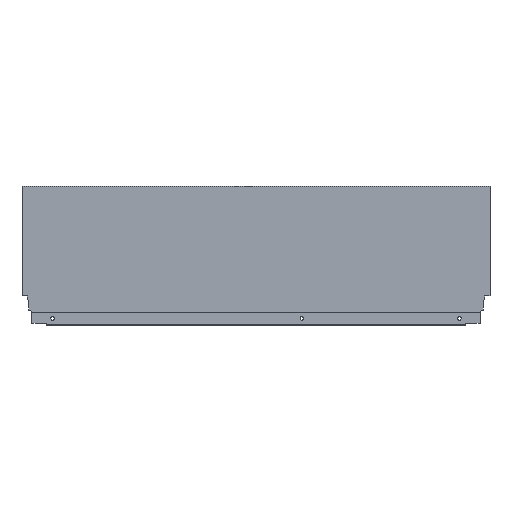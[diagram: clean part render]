
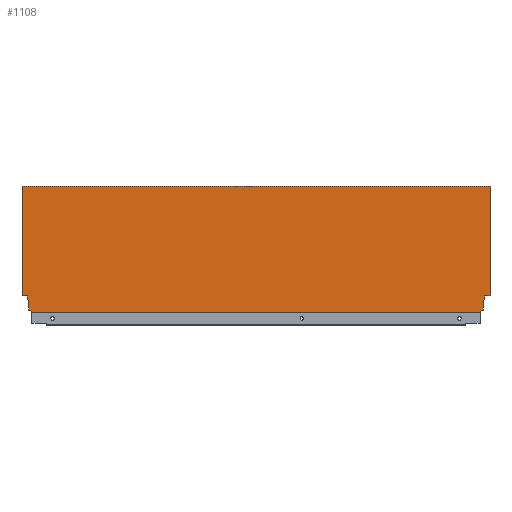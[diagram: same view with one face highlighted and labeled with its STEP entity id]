
A CAD part, top view. The second image highlights one B-rep face of the part: STEP entity #1108.
In plain terms, the highlighted planar face has unit normal (0, 0, 1).
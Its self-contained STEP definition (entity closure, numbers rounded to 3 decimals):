
#3 = VERTEX_POINT ( 'NONE', #29 ) ;
#28 = VERTEX_POINT ( 'NONE', #271 ) ;
#29 = CARTESIAN_POINT ( 'NONE',  ( -599.996, 1.146, 7.5 ) ) ;
#68 = CARTESIAN_POINT ( 'NONE',  ( -613., 164.7, 7.5 ) ) ;
#90 = LINE ( 'NONE', #1091, #944 ) ;
#91 = VECTOR ( 'NONE', #1092, 1000. ) ;
#239 = VERTEX_POINT ( 'NONE', #286 ) ;
#240 = VERTEX_POINT ( 'NONE', #287 ) ;
#241 = VERTEX_POINT ( 'NONE', #288 ) ;
#249 = VERTEX_POINT ( 'NONE', #294 ) ;
#250 = VERTEX_POINT ( 'NONE', #295 ) ;
#256 = VERTEX_POINT ( 'NONE', #303 ) ;
#271 = CARTESIAN_POINT ( 'NONE',  ( -613., 164.7, 7.5 ) ) ;
#286 = CARTESIAN_POINT ( 'NONE',  ( -599.996, 0., 7.5 ) ) ;
#287 = CARTESIAN_POINT ( 'NONE',  ( -605.94, 21.2, 7.5 ) ) ;
#288 = CARTESIAN_POINT ( 'NONE',  ( -8.9, 10.765, 7.5 ) ) ;
#294 = CARTESIAN_POINT ( 'NONE',  ( 0., 21.2, 7.5 ) ) ;
#295 = CARTESIAN_POINT ( 'NONE',  ( -13.004, 0., 7.5 ) ) ;
#303 = CARTESIAN_POINT ( 'NONE',  ( -604.1, 2.64, 7.5 ) ) ;
#423 = EDGE_CURVE ( 'NONE', #28, #1398, #1170, .T. ) ;
#425 = EDGE_CURVE ( 'NONE', #249, #1388, #1178, .T. ) ;
#427 = EDGE_CURVE ( 'NONE', #1388, #241, #1298, .T. ) ;
#428 = EDGE_CURVE ( 'NONE', #1398, #249, #90, .T. ) ;
#429 = EDGE_CURVE ( 'NONE', #241, #1374, #945, .T. ) ;
#430 = EDGE_CURVE ( 'NONE', #1374, #1394, #947, .T. ) ;
#431 = EDGE_CURVE ( 'NONE', #28, #1383, #949, .T. ) ;
#432 = EDGE_CURVE ( 'NONE', #1394, #250, #1169, .T. ) ;
#433 = EDGE_CURVE ( 'NONE', #3, #256, #953, .T. ) ;
#434 = EDGE_CURVE ( 'NONE', #256, #1385, #955, .T. ) ;
#435 = EDGE_CURVE ( 'NONE', #1385, #240, #957, .T. ) ;
#436 = EDGE_CURVE ( 'NONE', #240, #1383, #959, .T. ) ;
#437 = EDGE_CURVE ( 'NONE', #239, #250, #961, .T. ) ;
#440 = EDGE_CURVE ( 'NONE', #239, #3, #1173, .T. ) ;
#493 = AXIS2_PLACEMENT_3D ( 'NONE', #1413, #1508, #1417 ) ;
#610 = ORIENTED_EDGE ( 'NONE', *, *, #430, .F. ) ;
#640 = ORIENTED_EDGE ( 'NONE', *, *, #435, .F. ) ;
#645 = ORIENTED_EDGE ( 'NONE', *, *, #436, .F. ) ;
#646 = ORIENTED_EDGE ( 'NONE', *, *, #437, .T. ) ;
#655 = ORIENTED_EDGE ( 'NONE', *, *, #429, .F. ) ;
#682 = ORIENTED_EDGE ( 'NONE', *, *, #434, .F. ) ;
#684 = ORIENTED_EDGE ( 'NONE', *, *, #428, .F. ) ;
#685 = ORIENTED_EDGE ( 'NONE', *, *, #423, .F. ) ;
#697 = ORIENTED_EDGE ( 'NONE', *, *, #427, .F. ) ;
#698 = ORIENTED_EDGE ( 'NONE', *, *, #425, .F. ) ;
#707 = ORIENTED_EDGE ( 'NONE', *, *, #431, .T. ) ;
#728 = ORIENTED_EDGE ( 'NONE', *, *, #432, .F. ) ;
#733 = ORIENTED_EDGE ( 'NONE', *, *, #433, .F. ) ;
#734 = ORIENTED_EDGE ( 'NONE', *, *, #440, .F. ) ;
#944 = VECTOR ( 'NONE', #1090, 1000. ) ;
#945 = LINE ( 'NONE', #1088, #946 ) ;
#946 = VECTOR ( 'NONE', #1087, 1000. ) ;
#947 = LINE ( 'NONE', #1086, #948 ) ;
#948 = VECTOR ( 'NONE', #1085, 1000. ) ;
#949 = LINE ( 'NONE', #1083, #950 ) ;
#950 = VECTOR ( 'NONE', #1082, 1000. ) ;
#951 = VECTOR ( 'NONE', #1079, 1000. ) ;
#953 = LINE ( 'NONE', #1050, #954 ) ;
#954 = VECTOR ( 'NONE', #1046, 1000. ) ;
#955 = LINE ( 'NONE', #1041, #956 ) ;
#956 = VECTOR ( 'NONE', #1057, 1000. ) ;
#957 = LINE ( 'NONE', #1056, #958 ) ;
#958 = VECTOR ( 'NONE', #1055, 1000. ) ;
#959 = LINE ( 'NONE', #1054, #960 ) ;
#960 = VECTOR ( 'NONE', #1053, 1000. ) ;
#961 = LINE ( 'NONE', #1052, #962 ) ;
#962 = VECTOR ( 'NONE', #1051, 1000. ) ;
#1021 = FACE_OUTER_BOUND ( 'NONE', #1370, .T. ) ;
#1041 = CARTESIAN_POINT ( 'NONE',  ( -604.1, 10.765, 7.5 ) ) ;
#1042 = DIRECTION ( 'NONE',  ( 0., 1., 0. ) ) ;
#1043 = CARTESIAN_POINT ( 'NONE',  ( -599.996, 1.146, 7.5 ) ) ;
#1046 = DIRECTION ( 'NONE',  ( -0.94, 0.342, 0. ) ) ;
#1050 = CARTESIAN_POINT ( 'NONE',  ( -604.1, 2.64, 7.5 ) ) ;
#1051 = DIRECTION ( 'NONE',  ( 1., 0., 0. ) ) ;
#1052 = CARTESIAN_POINT ( 'NONE',  ( -613., 0., 7.5 ) ) ;
#1053 = DIRECTION ( 'NONE',  ( -1., 0., 0. ) ) ;
#1054 = CARTESIAN_POINT ( 'NONE',  ( -618., 21.2, 7.5 ) ) ;
#1055 = DIRECTION ( 'NONE',  ( -0.174, 0.985, 0. ) ) ;
#1056 = CARTESIAN_POINT ( 'NONE',  ( -605.94, 21.2, 7.5 ) ) ;
#1057 = DIRECTION ( 'NONE',  ( 0., 1., 0. ) ) ;
#1079 = DIRECTION ( 'NONE',  ( 0., -1., 0. ) ) ;
#1080 = CARTESIAN_POINT ( 'NONE',  ( -13.004, 1.146, 7.5 ) ) ;
#1082 = DIRECTION ( 'NONE',  ( 0., -1., 0. ) ) ;
#1083 = CARTESIAN_POINT ( 'NONE',  ( -613., 0., 7.5 ) ) ;
#1085 = DIRECTION ( 'NONE',  ( -0.94, -0.342, 0. ) ) ;
#1086 = CARTESIAN_POINT ( 'NONE',  ( -8.9, 2.64, 7.5 ) ) ;
#1087 = DIRECTION ( 'NONE',  ( 0., -1., 0. ) ) ;
#1088 = CARTESIAN_POINT ( 'NONE',  ( -8.9, 10.765, 7.5 ) ) ;
#1089 = DIRECTION ( 'NONE',  ( 1., 0., 0. ) ) ;
#1090 = DIRECTION ( 'NONE',  ( 0., -1., 0. ) ) ;
#1091 = CARTESIAN_POINT ( 'NONE',  ( 0., 0., 7.5 ) ) ;
#1092 = DIRECTION ( 'NONE',  ( -0.174, -0.985, 0. ) ) ;
#1093 = CARTESIAN_POINT ( 'NONE',  ( -7.06, 21.2, 7.5 ) ) ;
#1096 = DIRECTION ( 'NONE',  ( -1., 0., 0. ) ) ;
#1097 = CARTESIAN_POINT ( 'NONE',  ( 0., 21.2, 7.5 ) ) ;
#1108 = ADVANCED_FACE ( 'NONE', ( #1021 ), #1412, .T. ) ;
#1167 = VECTOR ( 'NONE', #1042, 1000. ) ;
#1169 = LINE ( 'NONE', #1080, #951 ) ;
#1170 = LINE ( 'NONE', #68, #1175 ) ;
#1173 = LINE ( 'NONE', #1043, #1167 ) ;
#1175 = VECTOR ( 'NONE', #1089, 1000. ) ;
#1177 = VECTOR ( 'NONE', #1096, 1000. ) ;
#1178 = LINE ( 'NONE', #1097, #1177 ) ;
#1298 = LINE ( 'NONE', #1093, #91 ) ;
#1370 = EDGE_LOOP ( 'NONE', ( #707, #645, #640, #682, #733, #734, #646, #728, #610, #655, #697, #698, #684, #685 ) ) ;
#1374 = VERTEX_POINT ( 'NONE', #1479 ) ;
#1383 = VERTEX_POINT ( 'NONE', #1440 ) ;
#1385 = VERTEX_POINT ( 'NONE', #1494 ) ;
#1388 = VERTEX_POINT ( 'NONE', #1504 ) ;
#1394 = VERTEX_POINT ( 'NONE', #1505 ) ;
#1398 = VERTEX_POINT ( 'NONE', #1476 ) ;
#1412 = PLANE ( 'NONE',  #493 ) ;
#1413 = CARTESIAN_POINT ( 'NONE',  ( -613., 0., 7.5 ) ) ;
#1417 = DIRECTION ( 'NONE',  ( 1., 0., 0. ) ) ;
#1440 = CARTESIAN_POINT ( 'NONE',  ( -613., 21.2, 7.5 ) ) ;
#1476 = CARTESIAN_POINT ( 'NONE',  ( 0., 164.7, 7.5 ) ) ;
#1479 = CARTESIAN_POINT ( 'NONE',  ( -8.9, 2.64, 7.5 ) ) ;
#1494 = CARTESIAN_POINT ( 'NONE',  ( -604.1, 10.765, 7.5 ) ) ;
#1504 = CARTESIAN_POINT ( 'NONE',  ( -7.06, 21.2, 7.5 ) ) ;
#1505 = CARTESIAN_POINT ( 'NONE',  ( -13.004, 1.146, 7.5 ) ) ;
#1508 = DIRECTION ( 'NONE',  ( 0., 0., 1. ) ) ;
